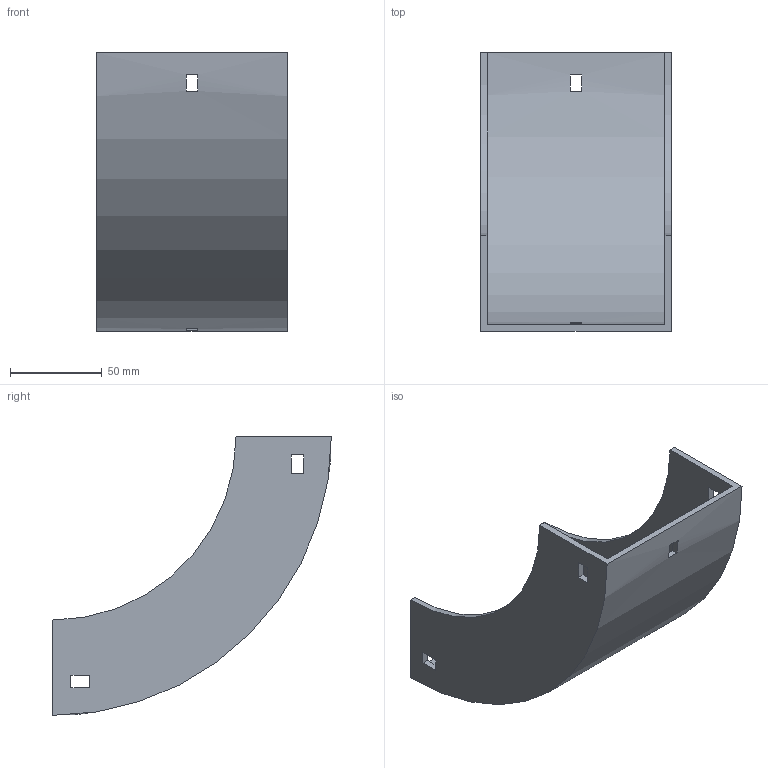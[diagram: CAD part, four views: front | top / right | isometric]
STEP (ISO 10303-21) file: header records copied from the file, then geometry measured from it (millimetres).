
FILE_DESCRIPTION (( 'STEP AP214' ), '1' );
FILE_NAME ('30B1B100.step', '2025-02-21T09:49:28', ( '' ), ( '' ), 'SwSTEP 2.0', 'SolidWorks 2023', '' );
FILE_SCHEMA (( 'AUTOMOTIVE_DESIGN' ));
Length unit declared in the file: millimetre
Products named in the file (1): 30B1B100
Bounding box: 104 x 152 x 152 mm (x, y, z)
Volume: 150777.1 mm3; surface area: 89378.5 mm2
Topology: 1 solids, 1 shells, 34 faces, 96 edges, 64 vertices
Faces by surface type: plane 30, cylinder 4
Entity records: 1143 total; most frequent: CARTESIAN_POINT 195, ORIENTED_EDGE 192, DIRECTION 182, EDGE_CURVE 96, VECTOR 80, LINE 80, VERTEX_POINT 64, AXIS2_PLACEMENT_3D 51
